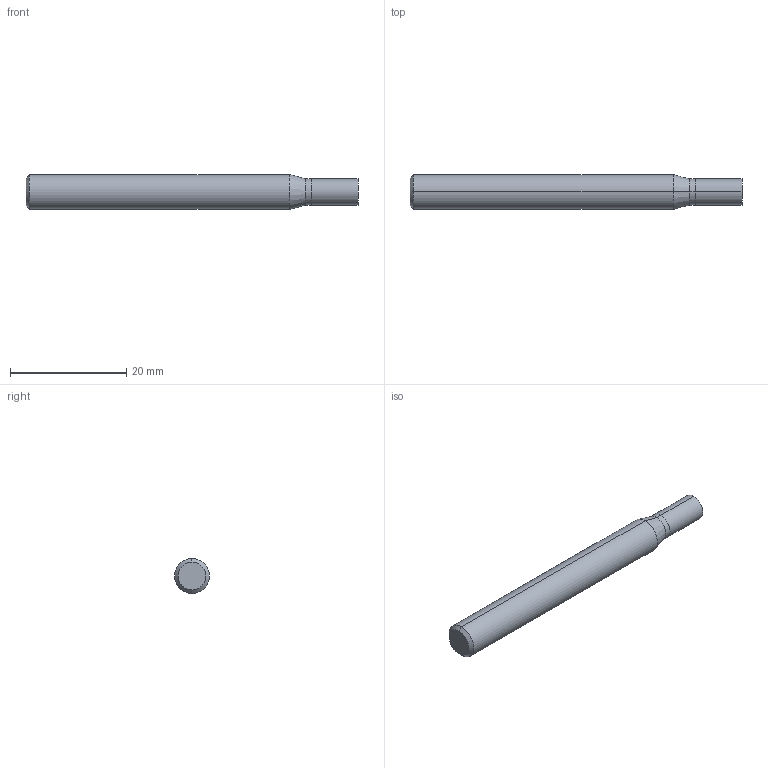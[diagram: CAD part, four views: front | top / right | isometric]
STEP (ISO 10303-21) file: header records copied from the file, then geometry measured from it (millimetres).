
FILE_DESCRIPTION (( 'STEP AP214' ), '1' );
FILE_NAME ('G9447045.STEP', '2018-07-02T09:42:17', ( '' ), ( '' ), 'SwSTEP 2.0', 'SolidWorks 2014', '' );
FILE_SCHEMA (( 'AUTOMOTIVE_DESIGN' ));
Length unit declared in the file: millimetre
Products named in the file (1): G9447045
Bounding box: 57 x 6 x 6 mm (x, y, z)
Volume: 1479 mm3; surface area: 1095.9 mm2
Topology: 2 solids, 2 shells, 14 faces, 24 edges, 14 vertices
Faces by surface type: cylinder 6, cone 4, plane 4
Entity records: 421 total; most frequent: DIRECTION 68, CARTESIAN_POINT 53, ORIENTED_EDGE 48, AXIS2_PLACEMENT_3D 29, EDGE_CURVE 24, ADVANCED_FACE 14, EDGE_LOOP 14, VERTEX_POINT 14
